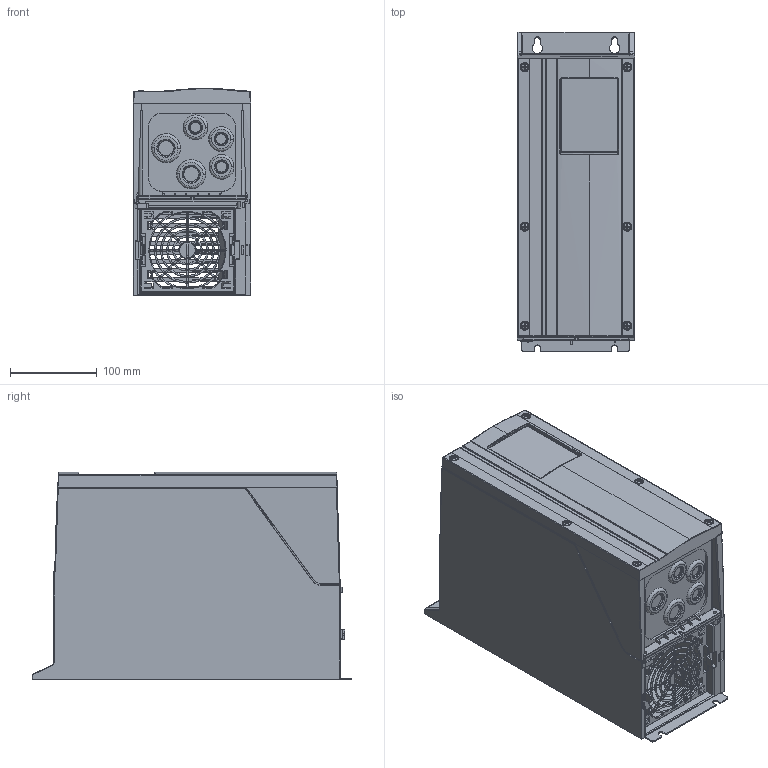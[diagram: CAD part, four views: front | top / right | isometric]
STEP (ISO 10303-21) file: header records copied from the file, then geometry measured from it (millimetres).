
FILE_DESCRIPTION (( 'STEP AP203' ), '1' );
FILE_NAME ('i3-ip54_0.STEP', '2016-01-18T15:18:33', ( '' ), ( '' ), 'SwSTEP 2.0', 'SolidWorks 2015', '' );
FILE_SCHEMA (( 'CONFIG_CONTROL_DESIGN' ));
Length unit declared in the file: millimetre
Products named in the file (1): i3-ip54_0
Bounding box: 135 x 368 x 239 mm (x, y, z)
Surface area: 656616.5 mm2 (no closed solid volume)
Topology: 0 solids, 12 shells, 3770 faces, 10125 edges, 6270 vertices
Faces by surface type: plane 1522, bspline 1100, cylinder 989, cone 159
Entity records: 213184 total; most frequent: CARTESIAN_POINT 135088, ORIENTED_EDGE 20086, DIRECTION 10436, EDGE_CURVE 10061, VERTEX_POINT 6254, B_SPLINE_CURVE_WITH_KNOTS 5286, EDGE_LOOP 3972, ADVANCED_FACE 3763
